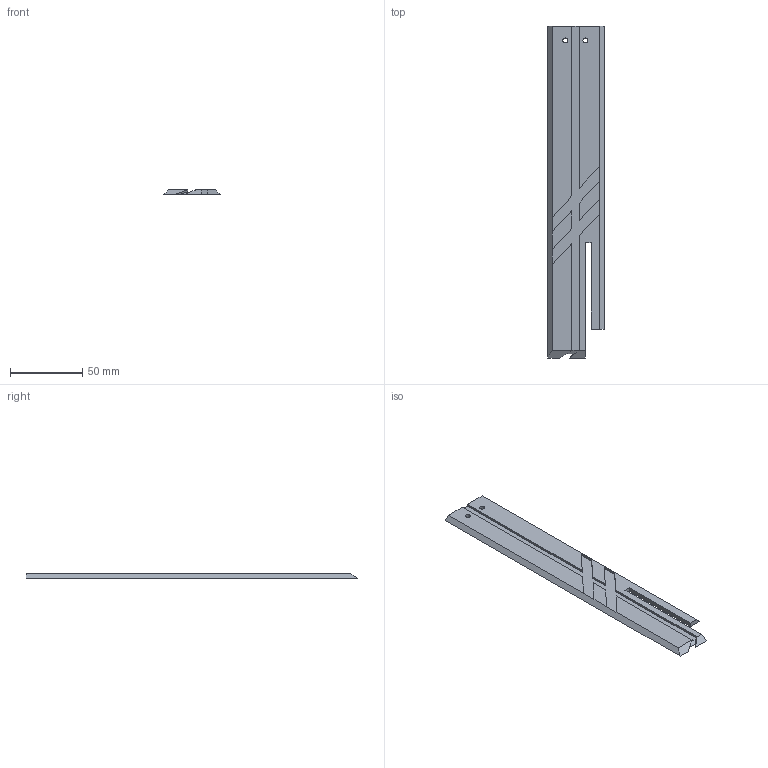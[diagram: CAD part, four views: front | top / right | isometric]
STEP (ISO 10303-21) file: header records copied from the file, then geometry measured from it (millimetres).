
FILE_DESCRIPTION(/* description */ ('STEP AP242 Edition 2','CAx-IF Rec.Pracs.---Representation and Presentation of Product Manufacturing Information (PMI)---4.0---2014-10-13','CAx-IF Rec.Pracs.---3D Tessellated Geometry---0.4---2014-09-14','2;1','CAx-IF Rec.Pracs.---User Defined Attributes---1.5---2016-08-15'),/* implementation_level */ '2;1');
FILE_NAME(/* name */ 'Arm Parts - XWall2',/* time_stamp */ '2026-04-22T00:04:14Z',/* author */ (''),/* organization */ (''),/* preprocessor_version */ 'ST-DEVELOPER v20',/* originating_system */ 'ONSHAPE BY PTC INC, 1.213',/* authorisation */ ' ');
FILE_SCHEMA (('AP242_MANAGED_MODEL_BASED_3D_ENGINEERING_MIM_LF { 1 0 10303 442 3 1 4 }'));
Length unit declared in the file: metre
Products named in the file (1): XWall2
Bounding box: 39 x 230 x 3 mm (x, y, z)
Volume: 20620.4 mm3; surface area: 18980 mm2
Topology: 1 solids, 1 shells, 39 faces, 104 edges, 67 vertices
Faces by surface type: plane 37, cylinder 2
Full cylindrical faces by diameter (mm): 3.4 x2
Entity records: 1206 total; most frequent: CARTESIAN_POINT 209, ORIENTED_EDGE 204, DIRECTION 186, EDGE_CURVE 102, LINE 98, VECTOR 98, VERTEX_POINT 67, EDGE_LOOP 45
